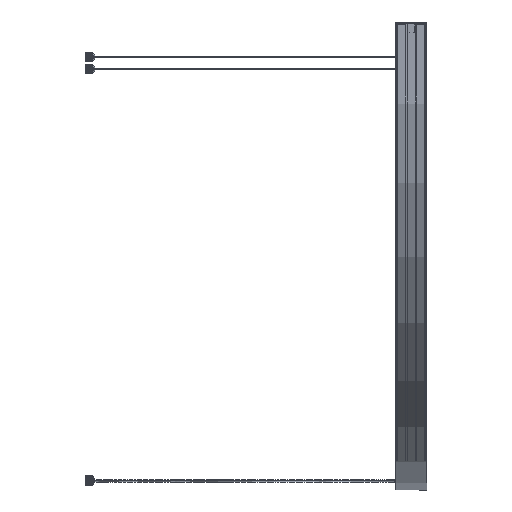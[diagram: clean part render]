
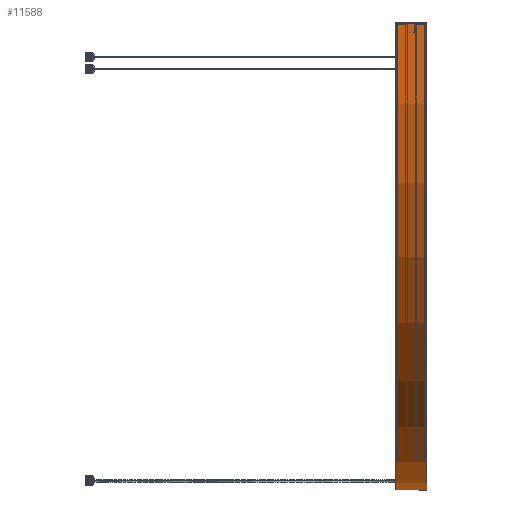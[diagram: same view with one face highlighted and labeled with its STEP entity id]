
A CAD part, left-side view. The second image highlights one B-rep face of the part: STEP entity #11588.
In plain terms, the highlighted cylindrical face has radius 750 mm (diameter 1500 mm), a partial arc.
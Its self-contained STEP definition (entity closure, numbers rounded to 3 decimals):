
#210 = EDGE_CURVE ( 'NONE', #14507, #9753, #18503, .T. ) ;
#970 = CYLINDRICAL_SURFACE ( 'NONE', #9680, 750. ) ;
#978 = AXIS2_PLACEMENT_3D ( 'NONE', #8554, #11736, #16555 ) ;
#1986 = CARTESIAN_POINT ( 'NONE',  ( -13.25, -24.95, 0. ) ) ;
#2588 = EDGE_CURVE ( 'NONE', #14883, #4861, #16174, .T. ) ;
#3042 = CARTESIAN_POINT ( 'NONE',  ( 736.75, 24.95, 0. ) ) ;
#3190 = CARTESIAN_POINT ( 'NONE',  ( 1486.75, 24.95, 0. ) ) ;
#3781 = CARTESIAN_POINT ( 'NONE',  ( -13.25, 24.95, 0. ) ) ;
#4153 = DIRECTION ( 'NONE',  ( 0., 0., 1. ) ) ;
#4220 = VECTOR ( 'NONE', #7309, 1000. ) ;
#4421 = LINE ( 'NONE', #14728, #19854 ) ;
#4861 = VERTEX_POINT ( 'NONE', #1986 ) ;
#5395 = ORIENTED_EDGE ( 'NONE', *, *, #19508, .F. ) ;
#5679 = ORIENTED_EDGE ( 'NONE', *, *, #2588, .T. ) ;
#6416 = FACE_OUTER_BOUND ( 'NONE', #8353, .T. ) ;
#7309 = DIRECTION ( 'NONE',  ( 0., 1., 0. ) ) ;
#8353 = EDGE_LOOP ( 'NONE', ( #5679, #13865, #18775, #5395 ) ) ;
#8554 = CARTESIAN_POINT ( 'NONE',  ( 736.75, -24.95, 0. ) ) ;
#8745 = CARTESIAN_POINT ( 'NONE',  ( 1486.75, -24.95, 0. ) ) ;
#9680 = AXIS2_PLACEMENT_3D ( 'NONE', #10926, #19190, #4153 ) ;
#9753 = VERTEX_POINT ( 'NONE', #3781 ) ;
#10926 = CARTESIAN_POINT ( 'NONE',  ( 736.75, 0., 0. ) ) ;
#11176 = LINE ( 'NONE', #17131, #4220 ) ;
#11588 = ADVANCED_FACE ( 'NONE', ( #6416 ), #970, .T. ) ;
#11736 = DIRECTION ( 'NONE',  ( 0., 1., 0. ) ) ;
#12818 = DIRECTION ( 'NONE',  ( 0., 1., 0. ) ) ;
#13865 = ORIENTED_EDGE ( 'NONE', *, *, #16453, .T. ) ;
#14507 = VERTEX_POINT ( 'NONE', #3190 ) ;
#14728 = CARTESIAN_POINT ( 'NONE',  ( 1486.75, -24.95, 0. ) ) ;
#14883 = VERTEX_POINT ( 'NONE', #8745 ) ;
#16174 = CIRCLE ( 'NONE', #978, 750. ) ;
#16385 = DIRECTION ( 'NONE',  ( 0., 1., 0. ) ) ;
#16453 = EDGE_CURVE ( 'NONE', #4861, #9753, #11176, .T. ) ;
#16555 = DIRECTION ( 'NONE',  ( 0., 0., 1. ) ) ;
#16832 = AXIS2_PLACEMENT_3D ( 'NONE', #3042, #12818, #19405 ) ;
#17131 = CARTESIAN_POINT ( 'NONE',  ( -13.25, -24.95, 0. ) ) ;
#18503 = CIRCLE ( 'NONE', #16832, 750. ) ;
#18775 = ORIENTED_EDGE ( 'NONE', *, *, #210, .F. ) ;
#19190 = DIRECTION ( 'NONE',  ( 0., 1., 0. ) ) ;
#19405 = DIRECTION ( 'NONE',  ( 0., 0., 1. ) ) ;
#19508 = EDGE_CURVE ( 'NONE', #14883, #14507, #4421, .T. ) ;
#19854 = VECTOR ( 'NONE', #16385, 1000. ) ;
